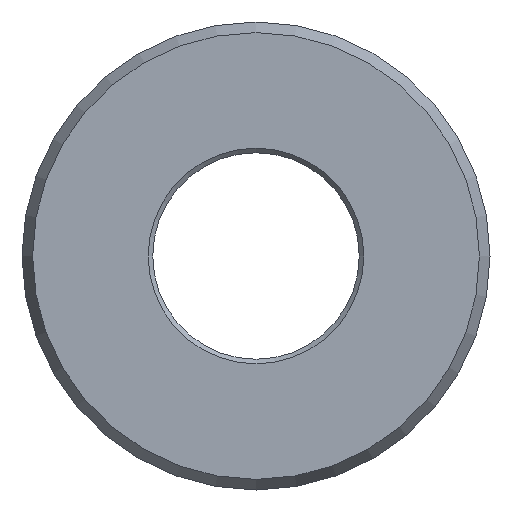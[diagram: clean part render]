
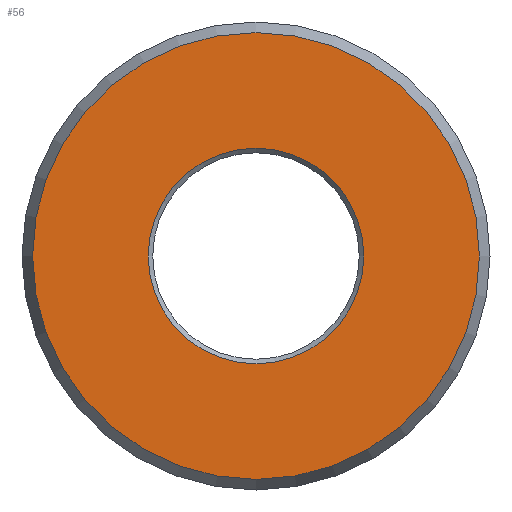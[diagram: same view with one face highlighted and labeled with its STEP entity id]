
A CAD part, left-side view. The second image highlights one B-rep face of the part: STEP entity #56.
In plain terms, the highlighted planar face has unit normal (-1, 0, 0).
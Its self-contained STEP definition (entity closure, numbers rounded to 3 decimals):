
#56=ADVANCED_FACE('',(#193,#195),#197,.T.);
#193=FACE_BOUND('',#194,.T.);
#194=EDGE_LOOP('',(#319));
#195=FACE_BOUND('',#196,.T.);
#196=EDGE_LOOP('',(#320));
#197=PLANE('',#198);
#198=AXIS2_PLACEMENT_3D('',#199,#200,#201);
#199=CARTESIAN_POINT('',(0.,0.,0.));
#200=DIRECTION('',(-1.,0.,0.));
#201=DIRECTION('',(0.,0.,-1.));
#319=ORIENTED_EDGE('',*,*,#349,.T.);
#320=ORIENTED_EDGE('',*,*,#350,.T.);
#349=EDGE_CURVE('',#364,#364,#365,.T.);
#350=EDGE_CURVE('',#366,#366,#367,.F.);
#364=VERTEX_POINT('',#394);
#365=CIRCLE('',#395,48.691);
#366=VERTEX_POINT('',#399);
#367=CIRCLE('',#400,23.5);
#394=CARTESIAN_POINT('',(0.,0.,-48.691));
#395=AXIS2_PLACEMENT_3D('',#396,#397,#398);
#396=CARTESIAN_POINT('',(0.,0.,0.));
#397=DIRECTION('',(-1.,0.,0.));
#398=DIRECTION('',(0.,0.,-1.));
#399=CARTESIAN_POINT('',(0.,0.,-23.5));
#400=AXIS2_PLACEMENT_3D('',#401,#402,#403);
#401=CARTESIAN_POINT('',(0.,0.,0.));
#402=DIRECTION('',(-1.,0.,0.));
#403=DIRECTION('',(0.,0.,-1.));
